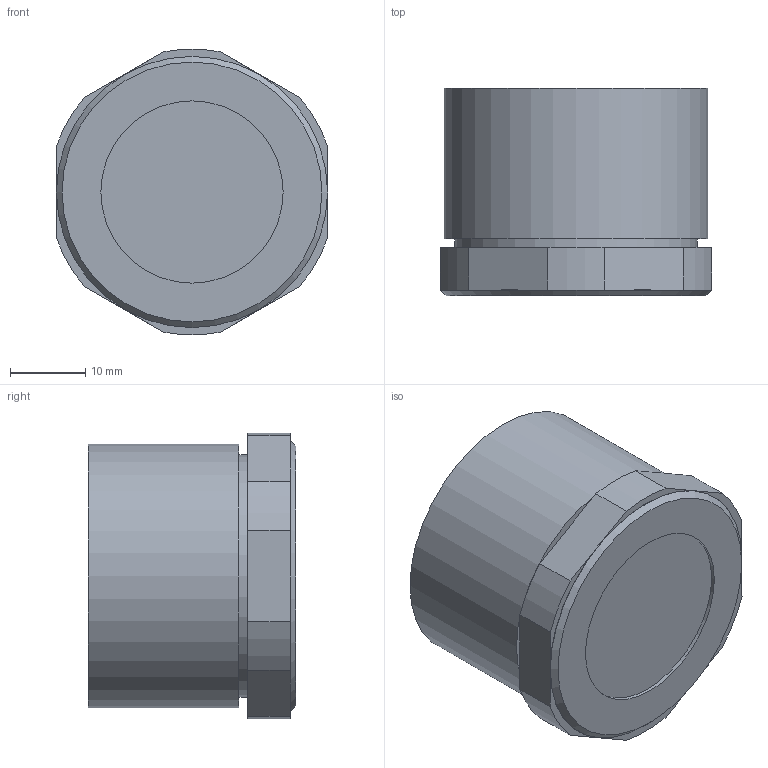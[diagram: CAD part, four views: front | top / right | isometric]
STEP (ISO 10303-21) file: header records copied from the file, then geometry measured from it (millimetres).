
FILE_DESCRIPTION(/* description */ (''),/* implementation_level */ '2;1');
FILE_NAME(/* name */ 'P:\Accessories\SSG-22G\SSG-22G.stp',/* time_stamp */ '2017-10-05T08:11:11+02:00',/* author */ ('neufeld'),/* organization */ (''),/* preprocessor_version */ 'ST-DEVELOPER v16.1',/* originating_system */ 'Autodesk Inventor 2016',/* authorisation */ '');
FILE_SCHEMA (('AUTOMOTIVE_DESIGN { 1 0 10303 214 3 1 1 }'));
Length unit declared in the file: millimetre
Products named in the file (1): SSG-22G
Bounding box: 36 x 27.55 x 37.92 mm (x, y, z)
Volume: 17460.4 mm3; surface area: 9339.7 mm2
Topology: 1 solids, 2 shells, 103 faces, 310 edges, 195 vertices
Faces by surface type: cylinder 70, plane 28, cone 4, sphere 1
Full cylindrical faces by diameter (mm): 2.9 x19, 22.2 x1, 23.1 x1, 24.2 x1, 25.2 x1, 26.3 x1, 28 x1, 28.7 x2, 28.81 x1, 32.15 x1, 35 x1
Entity records: 3496 total; most frequent: DIRECTION 672, CARTESIAN_POINT 587, ORIENTED_EDGE 542, AXIS2_PLACEMENT_3D 304, EDGE_CURVE 265, CIRCLE 200, EDGE_LOOP 188, VERTEX_POINT 185
